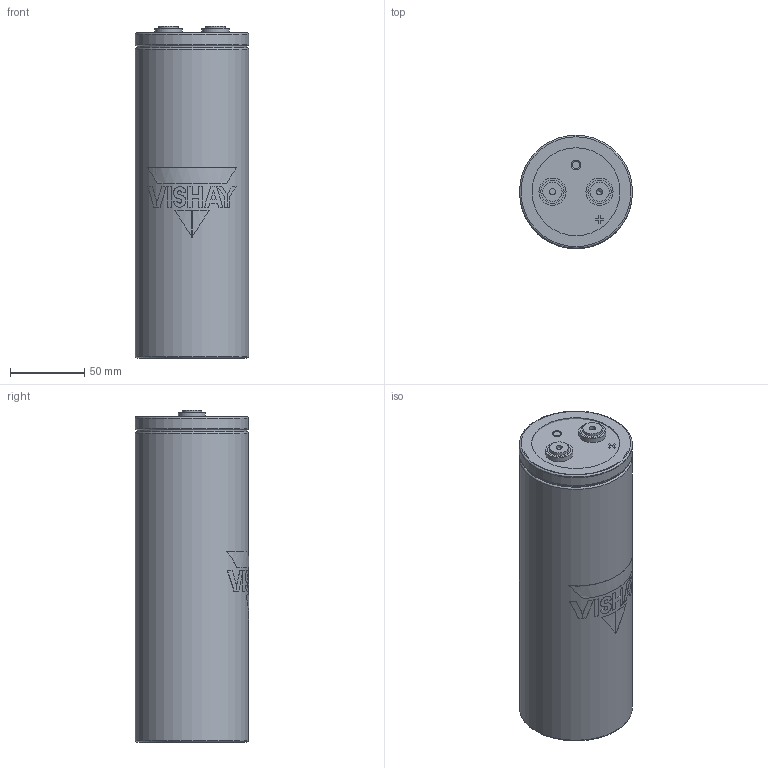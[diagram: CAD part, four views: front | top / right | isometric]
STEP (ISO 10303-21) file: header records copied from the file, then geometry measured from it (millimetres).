
FILE_DESCRIPTION(('FreeCAD Model'),'2;1');
FILE_NAME('C:/Users/tvandesteeg/Documents/Documents/FreeCAD/Stepfiles/ST capacitors/ST_LP_13mm_M5_76x220.step','2020-12-14T17:10:09',('Author'),( ''),'Open CASCADE STEP processor 7.3','FreeCAD','Unknown');
FILE_SCHEMA(('AUTOMOTIVE_DESIGN { 1 0 10303 214 1 1 1 1 }'));
Length unit declared in the file: millimetre
Products named in the file (8): VentBody; TerminalBody_(Mirror_#2); TerminalBody; TerminalHole; Disc; LogoPrint; CanBody; BottomBody
Bounding box: 76.4 x 76.5 x 224.2 mm (x, y, z)
Volume: 1010181.9 mm3; surface area: 90688.3 mm2
Topology: 18 solids, 18 shells, 152 faces, 316 edges, 208 vertices
Faces by surface type: plane 95, cylinder 49, torus 5, cone 3
Full cylindrical faces by diameter (mm): 4.2 x2, 5 x2, 13 x2, 15.65 x7, 18.3 x2, 59.422 x3, 72 x2, 74.2 x1, 76.4 x2
Entity records: 10765 total; most frequent: CARTESIAN_POINT 3371, DIRECTION 1221, ORIENTED_EDGE 628, PCURVE 628, DEFINITIONAL_REPRESENTATION 628, LINE 537, VECTOR 537, EDGE_CURVE 314
